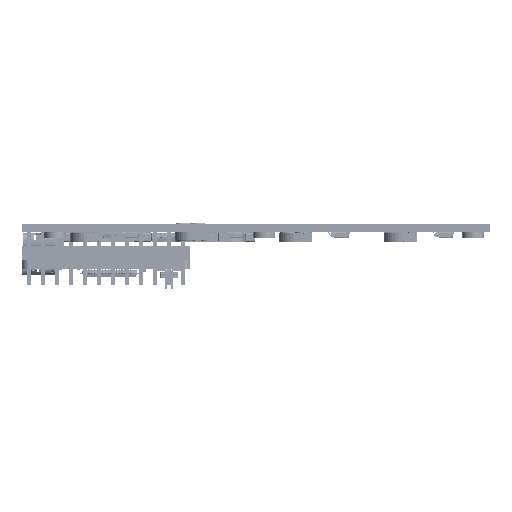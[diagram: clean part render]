
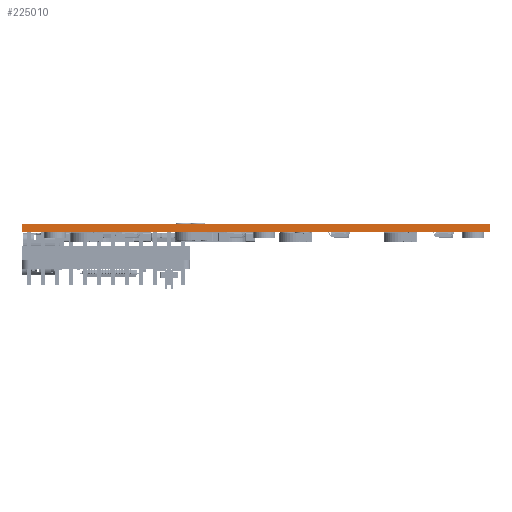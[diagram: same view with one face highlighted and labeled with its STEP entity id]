
A CAD part, left-side view. The second image highlights one B-rep face of the part: STEP entity #225010.
In plain terms, the highlighted planar face has unit normal (-1, 0, 0).
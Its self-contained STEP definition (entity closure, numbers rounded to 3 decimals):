
#215675 = VERTEX_POINT('',#215676);
#215676 = CARTESIAN_POINT('',(0.,85.,0.));
#215682 = EDGE_CURVE('',#215683,#215675,#215685,.T.);
#215683 = VERTEX_POINT('',#215684);
#215684 = CARTESIAN_POINT('',(0.,0.,0.));
#215685 = LINE('',#215686,#215687);
#215686 = CARTESIAN_POINT('',(0.,0.,0.));
#215687 = VECTOR('',#215688,1.);
#215688 = DIRECTION('',(0.,1.,0.));
#220329 = VERTEX_POINT('',#220330);
#220330 = CARTESIAN_POINT('',(0.,85.,1.6));
#220336 = EDGE_CURVE('',#220337,#220329,#220339,.T.);
#220337 = VERTEX_POINT('',#220338);
#220338 = CARTESIAN_POINT('',(0.,0.,1.6));
#220339 = LINE('',#220340,#220341);
#220340 = CARTESIAN_POINT('',(0.,0.,1.6));
#220341 = VECTOR('',#220342,1.);
#220342 = DIRECTION('',(0.,1.,0.));
#224980 = EDGE_CURVE('',#215675,#220329,#224981,.T.);
#224981 = LINE('',#224982,#224983);
#224982 = CARTESIAN_POINT('',(0.,85.,0.));
#224983 = VECTOR('',#224984,1.);
#224984 = DIRECTION('',(0.,0.,1.));
#224999 = EDGE_CURVE('',#215683,#220337,#225000,.T.);
#225000 = LINE('',#225001,#225002);
#225001 = CARTESIAN_POINT('',(0.,0.,0.));
#225002 = VECTOR('',#225003,1.);
#225003 = DIRECTION('',(0.,0.,1.));
#225010 = ADVANCED_FACE('',(#225011),#225017,.T.);
#225011 = FACE_BOUND('',#225012,.T.);
#225012 = EDGE_LOOP('',(#225013,#225014,#225015,#225016));
#225013 = ORIENTED_EDGE('',*,*,#224999,.T.);
#225014 = ORIENTED_EDGE('',*,*,#220336,.T.);
#225015 = ORIENTED_EDGE('',*,*,#224980,.F.);
#225016 = ORIENTED_EDGE('',*,*,#215682,.F.);
#225017 = PLANE('',#225018);
#225018 = AXIS2_PLACEMENT_3D('',#225019,#225020,#225021);
#225019 = CARTESIAN_POINT('',(0.,0.,0.));
#225020 = DIRECTION('',(-1.,0.,0.));
#225021 = DIRECTION('',(0.,1.,0.));
